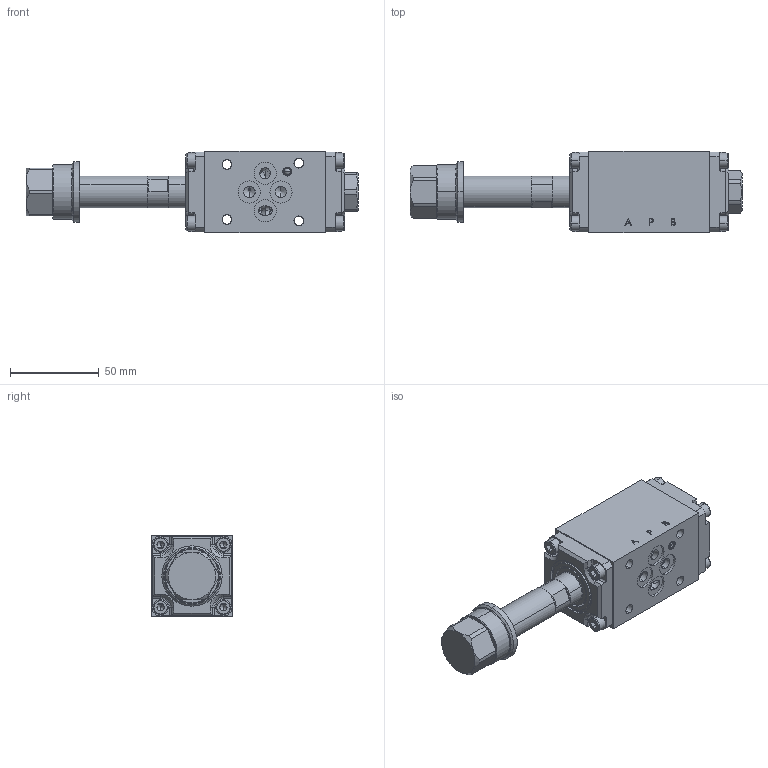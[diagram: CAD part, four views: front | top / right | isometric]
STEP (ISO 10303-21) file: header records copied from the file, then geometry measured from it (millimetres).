
FILE_DESCRIPTION (( 'STEP AP214' ), '1' );
FILE_NAME ('WDBFA06-K9-4_2-Aside.STEP', '2020-02-24T12:49:55', ( '' ), ( '' ), 'SwSTEP 2.0', 'SolidWorks 2018', '' );
FILE_SCHEMA (( 'AUTOMOTIVE_DESIGN' ));
Length unit declared in the file: millimetre
Products named in the file (1): WDBFA06-K9-4_2-Aside
Bounding box: 187.15 x 46 x 46 mm (x, y, z)
Volume: 212435 mm3; surface area: 40677 mm2
Topology: 1 solids, 14 shells, 735 faces, 1715 edges, 1047 vertices
Faces by surface type: plane 310, cylinder 216, cone 118, torus 72, bspline 15, sphere 4
Entity records: 30244 total; most frequent: CARTESIAN_POINT 5273, DIRECTION 3675, ORIENTED_EDGE 3358, EDGE_CURVE 1679, AXIS2_PLACEMENT_3D 1421, VERTEX_POINT 1047, EDGE_LOOP 834, LINE 833
